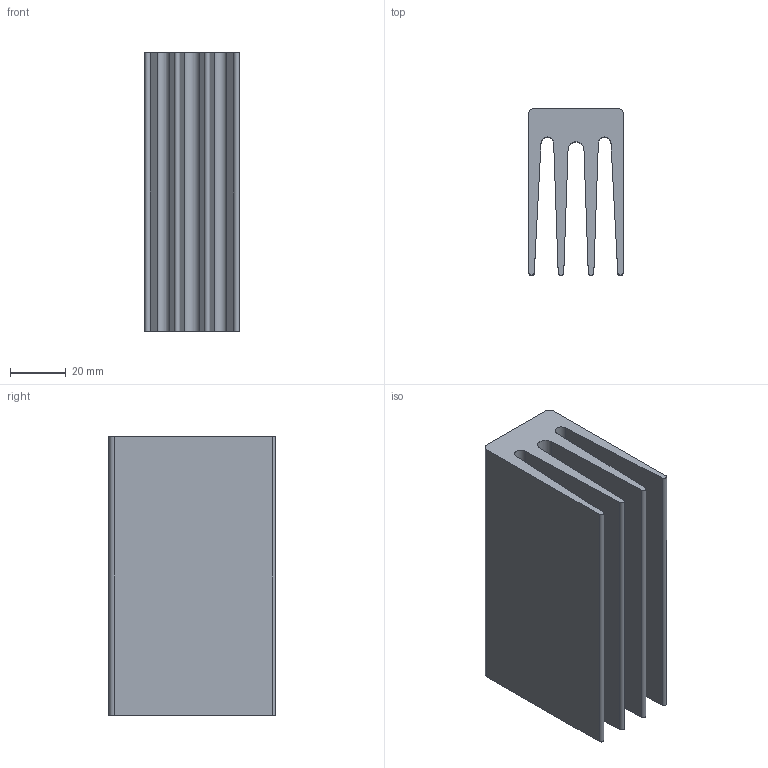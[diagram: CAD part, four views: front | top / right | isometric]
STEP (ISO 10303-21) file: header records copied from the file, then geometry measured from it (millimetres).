
FILE_DESCRIPTION (( 'STEP AP214' ), '1' );
FILE_NAME ('PR389.STEP', '2013-06-12T17:32:55', ( '' ), ( '' ), 'SwSTEP 2.0', 'SolidWorks 2013', '' );
FILE_SCHEMA (( 'AUTOMOTIVE_DESIGN' ));
Length unit declared in the file: millimetre
Products named in the file (1): PR389
Bounding box: 34 x 60 x 100 mm (x, y, z)
Volume: 105117.8 mm3; surface area: 48129.7 mm2
Topology: 1 solids, 1 shells, 20 faces, 54 edges, 36 vertices
Faces by surface type: plane 11, cylinder 9
Entity records: 670 total; most frequent: DIRECTION 114, CARTESIAN_POINT 111, ORIENTED_EDGE 108, EDGE_CURVE 54, AXIS2_PLACEMENT_3D 39, LINE 36, VECTOR 36, VERTEX_POINT 36
